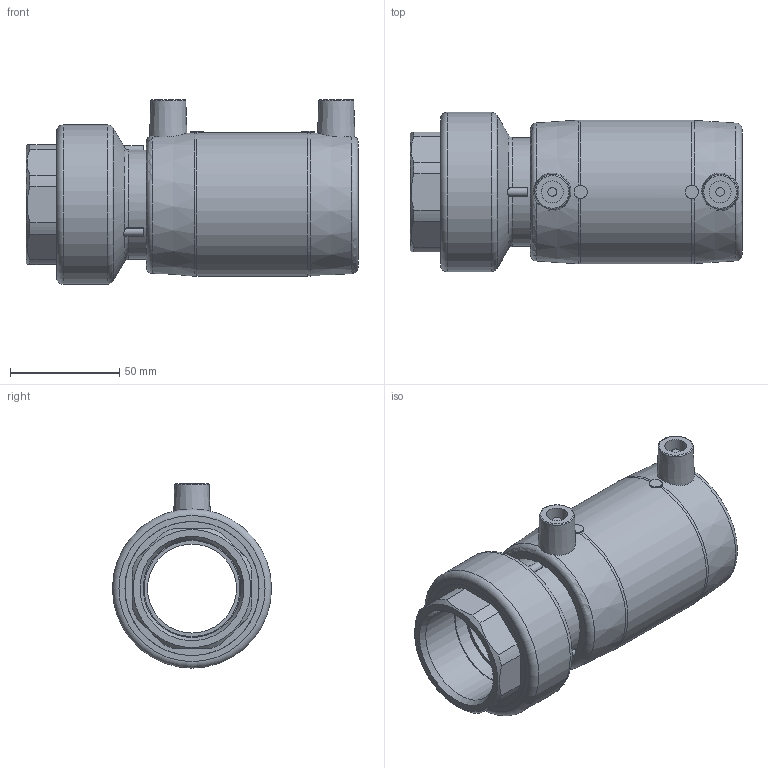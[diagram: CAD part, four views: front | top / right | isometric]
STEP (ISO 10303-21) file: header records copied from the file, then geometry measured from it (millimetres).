
FILE_DESCRIPTION(/* description */ ('Unknown'),/* implementation_level */ '2;1');
FILE_NAME(/* name */ 'MTFP050C',/* time_stamp */ '2021-03-02T09:30:13+01:00',/* author */ ('Unknown'),/* organization */ ('Unknown'),/* preprocessor_version */ 'ST-DEVELOPER v16.7',/* originating_system */ 'Solid Edge',/* authorisation */ 'Unknown');
FILE_SCHEMA (('AUTOMOTIVE_DESIGN {1 0 10303 214 3 1 1}'));
Length unit declared in the file: millimetre
Products named in the file (5): MTFP050C; MP050C; RTOFP050C; Parte PE 050; IOF050C
Assembly tree (4 placements, depth 3):
  MTFP050C
    MP050C
    RTOFP050C
      Parte PE 050
      IOF050C
Bounding box: 152.25 x 73 x 84.5 mm (x, y, z)
Volume: 268767.5 mm3; surface area: 96935.4 mm2
Topology: 3 solids, 3 shells, 208 faces, 509 edges, 329 vertices
Faces by surface type: plane 116, cylinder 52, torus 17, bspline 15, cone 8
Full cylindrical faces by diameter (mm): 4 x2, 6 x2, 10 x2, 40.8 x1, 44 x3, 44.845 x1, 48.5 x2, 50 x2, 55.5 x4, 57.3 x2, 61.5 x8, 66 x1, 73 x1
Entity records: 6652 total; most frequent: CARTESIAN_POINT 1414, DIRECTION 992, ORIENTED_EDGE 884, EDGE_CURVE 442, AXIS2_PLACEMENT_3D 402, VERTEX_POINT 308, EDGE_LOOP 282, FACE_BOUND 282
